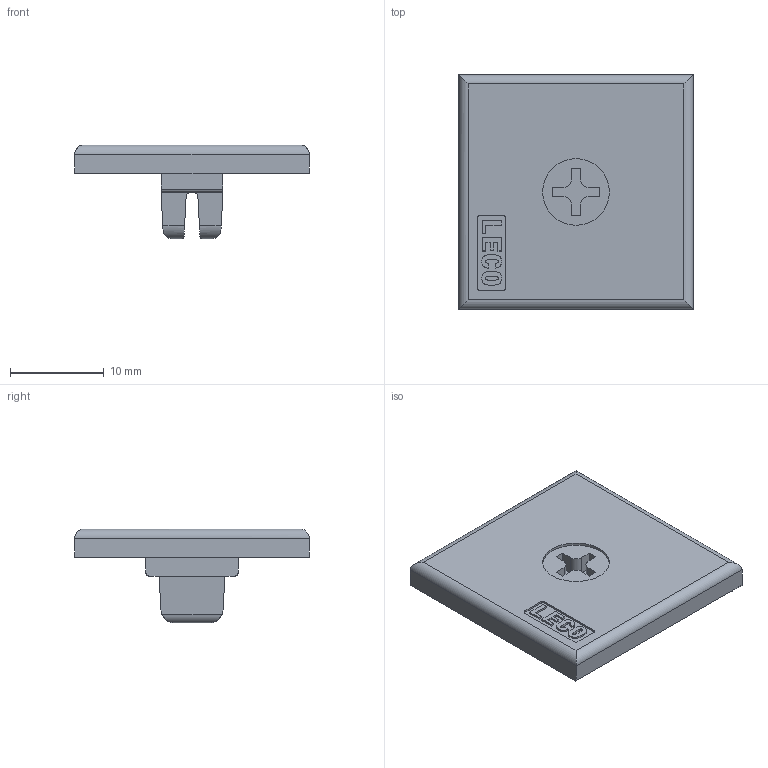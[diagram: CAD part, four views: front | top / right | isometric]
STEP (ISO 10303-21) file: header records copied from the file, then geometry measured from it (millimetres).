
FILE_DESCRIPTION(('STEP AP214'),'1');
FILE_NAME('EP25S.stp','2016-10-18T10:31:03',(' '),(' '),'Spatial InterOp 3D',' ',' ');
FILE_SCHEMA(('automotive_design'));
Length unit declared in the file: millimetre
Products named in the file (1): EP25S
Bounding box: 25 x 25 x 10 mm (x, y, z)
Volume: 2049.1 mm3; surface area: 1805 mm2
Topology: 1 solids, 1 shells, 127 faces, 337 edges, 222 vertices
Faces by surface type: plane 70, cylinder 57
Full cylindrical faces by diameter (mm): 7.1 x1
Entity records: 5016 total; most frequent: CARTESIAN_POINT 742, DIRECTION 686, ORIENTED_EDGE 672, EDGE_CURVE 336, AXIS2_PLACEMENT_3D 230, LINE 226, VECTOR 226, VERTEX_POINT 222
